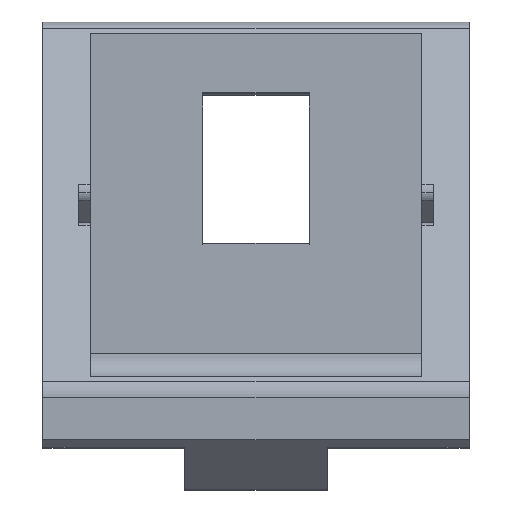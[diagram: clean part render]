
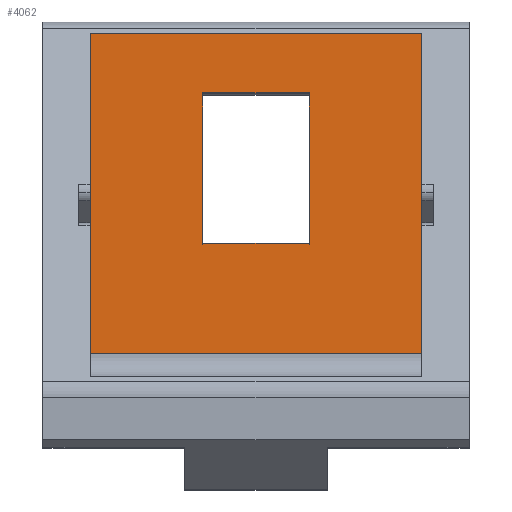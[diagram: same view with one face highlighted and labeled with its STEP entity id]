
A CAD part, top view. The second image highlights one B-rep face of the part: STEP entity #4062.
In plain terms, the highlighted planar face has unit normal (0, 0, 1).
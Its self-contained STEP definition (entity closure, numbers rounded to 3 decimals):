
#102 = PLANE('',#103);
#103 = AXIS2_PLACEMENT_3D('',#104,#105,#106);
#104 = CARTESIAN_POINT('',(7.,4.,4.));
#105 = DIRECTION('',(1.,0.,0.));
#106 = DIRECTION('',(0.,0.,-1.));
#167 = PLANE('',#168);
#168 = AXIS2_PLACEMENT_3D('',#169,#170,#171);
#169 = CARTESIAN_POINT('',(-7.,4.,4.));
#170 = DIRECTION('',(1.,0.,0.));
#171 = DIRECTION('',(0.,0.,-1.));
#404 = VERTEX_POINT('',#405);
#405 = CARTESIAN_POINT('',(7.,17.506,3.));
#419 = PLANE('',#420);
#420 = AXIS2_PLACEMENT_3D('',#421,#422,#423);
#421 = CARTESIAN_POINT('',(9.,17.707,2.799));
#422 = DIRECTION('',(0.,-0.707,-0.707));
#423 = DIRECTION('',(0.,0.707,-0.707));
#431 = EDGE_CURVE('',#432,#404,#434,.T.);
#432 = VERTEX_POINT('',#433);
#433 = CARTESIAN_POINT('',(7.,4.,3.));
#434 = SURFACE_CURVE('',#435,(#439,#446),.PCURVE_S1.);
#435 = LINE('',#436,#437);
#436 = CARTESIAN_POINT('',(7.,4.,3.));
#437 = VECTOR('',#438,1.);
#438 = DIRECTION('',(0.,1.,0.));
#439 = PCURVE('',#102,#440);
#440 = DEFINITIONAL_REPRESENTATION('',(#441),#445);
#441 = LINE('',#442,#443);
#442 = CARTESIAN_POINT('',(1.,0.));
#443 = VECTOR('',#444,1.);
#444 = DIRECTION('',(0.,1.));
#445 = ( GEOMETRIC_REPRESENTATION_CONTEXT(2) 
PARAMETRIC_REPRESENTATION_CONTEXT() REPRESENTATION_CONTEXT('2D SPACE',''
  ) );
#446 = PCURVE('',#447,#452);
#447 = PLANE('',#448);
#448 = AXIS2_PLACEMENT_3D('',#449,#450,#451);
#449 = CARTESIAN_POINT('',(7.,4.,3.));
#450 = DIRECTION('',(0.,-0.,1.));
#451 = DIRECTION('',(1.,0.,0.));
#452 = DEFINITIONAL_REPRESENTATION('',(#453),#457);
#453 = LINE('',#454,#455);
#454 = CARTESIAN_POINT('',(0.,0.));
#455 = VECTOR('',#456,1.);
#456 = DIRECTION('',(0.,1.));
#457 = ( GEOMETRIC_REPRESENTATION_CONTEXT(2) 
PARAMETRIC_REPRESENTATION_CONTEXT() REPRESENTATION_CONTEXT('2D SPACE',''
  ) );
#476 = CYLINDRICAL_SURFACE('',#477,1.);
#477 = AXIS2_PLACEMENT_3D('',#478,#479,#480);
#478 = CARTESIAN_POINT('',(7.,4.,4.));
#479 = DIRECTION('',(-1.,0.,0.));
#480 = DIRECTION('',(0.,0.,1.));
#646 = VERTEX_POINT('',#647);
#647 = CARTESIAN_POINT('',(-7.,4.,3.));
#669 = EDGE_CURVE('',#646,#670,#672,.T.);
#670 = VERTEX_POINT('',#671);
#671 = CARTESIAN_POINT('',(-7.,17.506,3.));
#672 = SURFACE_CURVE('',#673,(#677,#684),.PCURVE_S1.);
#673 = LINE('',#674,#675);
#674 = CARTESIAN_POINT('',(-7.,4.,3.));
#675 = VECTOR('',#676,1.);
#676 = DIRECTION('',(0.,1.,0.));
#677 = PCURVE('',#167,#678);
#678 = DEFINITIONAL_REPRESENTATION('',(#679),#683);
#679 = LINE('',#680,#681);
#680 = CARTESIAN_POINT('',(1.,0.));
#681 = VECTOR('',#682,1.);
#682 = DIRECTION('',(0.,1.));
#683 = ( GEOMETRIC_REPRESENTATION_CONTEXT(2) 
PARAMETRIC_REPRESENTATION_CONTEXT() REPRESENTATION_CONTEXT('2D SPACE',''
  ) );
#684 = PCURVE('',#447,#685);
#685 = DEFINITIONAL_REPRESENTATION('',(#686),#690);
#686 = LINE('',#687,#688);
#687 = CARTESIAN_POINT('',(-14.,0.));
#688 = VECTOR('',#689,1.);
#689 = DIRECTION('',(0.,1.));
#690 = ( GEOMETRIC_REPRESENTATION_CONTEXT(2) 
PARAMETRIC_REPRESENTATION_CONTEXT() REPRESENTATION_CONTEXT('2D SPACE',''
  ) );
#2350 = PLANE('',#2351);
#2351 = AXIS2_PLACEMENT_3D('',#2352,#2353,#2354);
#2352 = CARTESIAN_POINT('',(-2.25,3.,15.));
#2353 = DIRECTION('',(1.,0.,-0.));
#2354 = DIRECTION('',(-0.,0.,-1.));
#2378 = PLANE('',#2379);
#2379 = AXIS2_PLACEMENT_3D('',#2380,#2381,#2382);
#2380 = CARTESIAN_POINT('',(2.25,8.657,3.));
#2381 = DIRECTION('',(0.,0.707,-0.707));
#2382 = DIRECTION('',(0.,0.707,0.707));
#2404 = PLANE('',#2405);
#2405 = AXIS2_PLACEMENT_3D('',#2406,#2407,#2408);
#2406 = CARTESIAN_POINT('',(2.25,3.,15.));
#2407 = DIRECTION('',(1.,0.,-0.));
#2408 = DIRECTION('',(-0.,0.,-1.));
#2444 = VERTEX_POINT('',#2445);
#2445 = CARTESIAN_POINT('',(-2.25,15.,3.));
#2459 = PLANE('',#2460);
#2460 = AXIS2_PLACEMENT_3D('',#2461,#2462,#2463);
#2461 = CARTESIAN_POINT('',(2.25,15.,-2.));
#2462 = DIRECTION('',(0.,-1.,0.));
#2463 = DIRECTION('',(0.,-0.,-1.));
#2471 = EDGE_CURVE('',#2444,#2472,#2474,.T.);
#2472 = VERTEX_POINT('',#2473);
#2473 = CARTESIAN_POINT('',(-2.25,8.657,3.));
#2474 = SURFACE_CURVE('',#2475,(#2479,#2486),.PCURVE_S1.);
#2475 = LINE('',#2476,#2477);
#2476 = CARTESIAN_POINT('',(-2.25,15.,3.));
#2477 = VECTOR('',#2478,1.);
#2478 = DIRECTION('',(0.,-1.,0.));
#2479 = PCURVE('',#2350,#2480);
#2480 = DEFINITIONAL_REPRESENTATION('',(#2481),#2485);
#2481 = LINE('',#2482,#2483);
#2482 = CARTESIAN_POINT('',(12.,12.));
#2483 = VECTOR('',#2484,1.);
#2484 = DIRECTION('',(-0.,-1.));
#2485 = ( GEOMETRIC_REPRESENTATION_CONTEXT(2) 
PARAMETRIC_REPRESENTATION_CONTEXT() REPRESENTATION_CONTEXT('2D SPACE',''
  ) );
#2486 = PCURVE('',#447,#2487);
#2487 = DEFINITIONAL_REPRESENTATION('',(#2488),#2492);
#2488 = LINE('',#2489,#2490);
#2489 = CARTESIAN_POINT('',(-9.25,11.));
#2490 = VECTOR('',#2491,1.);
#2491 = DIRECTION('',(0.,-1.));
#2492 = ( GEOMETRIC_REPRESENTATION_CONTEXT(2) 
PARAMETRIC_REPRESENTATION_CONTEXT() REPRESENTATION_CONTEXT('2D SPACE',''
  ) );
#2543 = VERTEX_POINT('',#2544);
#2544 = CARTESIAN_POINT('',(2.25,8.657,3.));
#2565 = EDGE_CURVE('',#2566,#2543,#2568,.T.);
#2566 = VERTEX_POINT('',#2567);
#2567 = CARTESIAN_POINT('',(2.25,15.,3.));
#2568 = SURFACE_CURVE('',#2569,(#2573,#2580),.PCURVE_S1.);
#2569 = LINE('',#2570,#2571);
#2570 = CARTESIAN_POINT('',(2.25,15.,3.));
#2571 = VECTOR('',#2572,1.);
#2572 = DIRECTION('',(0.,-1.,0.));
#2573 = PCURVE('',#2404,#2574);
#2574 = DEFINITIONAL_REPRESENTATION('',(#2575),#2579);
#2575 = LINE('',#2576,#2577);
#2576 = CARTESIAN_POINT('',(12.,12.));
#2577 = VECTOR('',#2578,1.);
#2578 = DIRECTION('',(-0.,-1.));
#2579 = ( GEOMETRIC_REPRESENTATION_CONTEXT(2) 
PARAMETRIC_REPRESENTATION_CONTEXT() REPRESENTATION_CONTEXT('2D SPACE',''
  ) );
#2580 = PCURVE('',#447,#2581);
#2581 = DEFINITIONAL_REPRESENTATION('',(#2582),#2586);
#2582 = LINE('',#2583,#2584);
#2583 = CARTESIAN_POINT('',(-4.75,11.));
#2584 = VECTOR('',#2585,1.);
#2585 = DIRECTION('',(0.,-1.));
#2586 = ( GEOMETRIC_REPRESENTATION_CONTEXT(2) 
PARAMETRIC_REPRESENTATION_CONTEXT() REPRESENTATION_CONTEXT('2D SPACE',''
  ) );
#2635 = EDGE_CURVE('',#2566,#2444,#2636,.T.);
#2636 = SURFACE_CURVE('',#2637,(#2641,#2648),.PCURVE_S1.);
#2637 = LINE('',#2638,#2639);
#2638 = CARTESIAN_POINT('',(2.25,15.,3.));
#2639 = VECTOR('',#2640,1.);
#2640 = DIRECTION('',(-1.,0.,0.));
#2641 = PCURVE('',#2459,#2642);
#2642 = DEFINITIONAL_REPRESENTATION('',(#2643),#2647);
#2643 = LINE('',#2644,#2645);
#2644 = CARTESIAN_POINT('',(-5.,0.));
#2645 = VECTOR('',#2646,1.);
#2646 = DIRECTION('',(-0.,-1.));
#2647 = ( GEOMETRIC_REPRESENTATION_CONTEXT(2) 
PARAMETRIC_REPRESENTATION_CONTEXT() REPRESENTATION_CONTEXT('2D SPACE',''
  ) );
#2648 = PCURVE('',#447,#2649);
#2649 = DEFINITIONAL_REPRESENTATION('',(#2650),#2654);
#2650 = LINE('',#2651,#2652);
#2651 = CARTESIAN_POINT('',(-4.75,11.));
#2652 = VECTOR('',#2653,1.);
#2653 = DIRECTION('',(-1.,0.));
#2654 = ( GEOMETRIC_REPRESENTATION_CONTEXT(2) 
PARAMETRIC_REPRESENTATION_CONTEXT() REPRESENTATION_CONTEXT('2D SPACE',''
  ) );
#3822 = EDGE_CURVE('',#404,#670,#3823,.T.);
#3823 = SURFACE_CURVE('',#3824,(#3828,#3835),.PCURVE_S1.);
#3824 = LINE('',#3825,#3826);
#3825 = CARTESIAN_POINT('',(9.,17.506,3.));
#3826 = VECTOR('',#3827,1.);
#3827 = DIRECTION('',(-1.,0.,0.));
#3828 = PCURVE('',#419,#3829);
#3829 = DEFINITIONAL_REPRESENTATION('',(#3830),#3834);
#3830 = LINE('',#3831,#3832);
#3831 = CARTESIAN_POINT('',(-0.284,0.));
#3832 = VECTOR('',#3833,1.);
#3833 = DIRECTION('',(0.,-1.));
#3834 = ( GEOMETRIC_REPRESENTATION_CONTEXT(2) 
PARAMETRIC_REPRESENTATION_CONTEXT() REPRESENTATION_CONTEXT('2D SPACE',''
  ) );
#3835 = PCURVE('',#447,#3836);
#3836 = DEFINITIONAL_REPRESENTATION('',(#3837),#3841);
#3837 = LINE('',#3838,#3839);
#3838 = CARTESIAN_POINT('',(2.,13.506));
#3839 = VECTOR('',#3840,1.);
#3840 = DIRECTION('',(-1.,0.));
#3841 = ( GEOMETRIC_REPRESENTATION_CONTEXT(2) 
PARAMETRIC_REPRESENTATION_CONTEXT() REPRESENTATION_CONTEXT('2D SPACE',''
  ) );
#4062 = ADVANCED_FACE('',(#4063,#4089),#447,.T.);
#4063 = FACE_BOUND('',#4064,.T.);
#4064 = EDGE_LOOP('',(#4065,#4066,#4087,#4088));
#4065 = ORIENTED_EDGE('',*,*,#2565,.T.);
#4066 = ORIENTED_EDGE('',*,*,#4067,.T.);
#4067 = EDGE_CURVE('',#2543,#2472,#4068,.T.);
#4068 = SURFACE_CURVE('',#4069,(#4073,#4080),.PCURVE_S1.);
#4069 = LINE('',#4070,#4071);
#4070 = CARTESIAN_POINT('',(2.25,8.657,3.));
#4071 = VECTOR('',#4072,1.);
#4072 = DIRECTION('',(-1.,0.,0.));
#4073 = PCURVE('',#447,#4074);
#4074 = DEFINITIONAL_REPRESENTATION('',(#4075),#4079);
#4075 = LINE('',#4076,#4077);
#4076 = CARTESIAN_POINT('',(-4.75,4.657));
#4077 = VECTOR('',#4078,1.);
#4078 = DIRECTION('',(-1.,0.));
#4079 = ( GEOMETRIC_REPRESENTATION_CONTEXT(2) 
PARAMETRIC_REPRESENTATION_CONTEXT() REPRESENTATION_CONTEXT('2D SPACE',''
  ) );
#4080 = PCURVE('',#2378,#4081);
#4081 = DEFINITIONAL_REPRESENTATION('',(#4082),#4086);
#4082 = LINE('',#4083,#4084);
#4083 = CARTESIAN_POINT('',(0.,0.));
#4084 = VECTOR('',#4085,1.);
#4085 = DIRECTION('',(0.,-1.));
#4086 = ( GEOMETRIC_REPRESENTATION_CONTEXT(2) 
PARAMETRIC_REPRESENTATION_CONTEXT() REPRESENTATION_CONTEXT('2D SPACE',''
  ) );
#4087 = ORIENTED_EDGE('',*,*,#2471,.F.);
#4088 = ORIENTED_EDGE('',*,*,#2635,.F.);
#4089 = FACE_BOUND('',#4090,.T.);
#4090 = EDGE_LOOP('',(#4091,#4092,#4093,#4114));
#4091 = ORIENTED_EDGE('',*,*,#3822,.T.);
#4092 = ORIENTED_EDGE('',*,*,#669,.F.);
#4093 = ORIENTED_EDGE('',*,*,#4094,.F.);
#4094 = EDGE_CURVE('',#432,#646,#4095,.T.);
#4095 = SURFACE_CURVE('',#4096,(#4100,#4107),.PCURVE_S1.);
#4096 = LINE('',#4097,#4098);
#4097 = CARTESIAN_POINT('',(7.,4.,3.));
#4098 = VECTOR('',#4099,1.);
#4099 = DIRECTION('',(-1.,0.,0.));
#4100 = PCURVE('',#447,#4101);
#4101 = DEFINITIONAL_REPRESENTATION('',(#4102),#4106);
#4102 = LINE('',#4103,#4104);
#4103 = CARTESIAN_POINT('',(0.,0.));
#4104 = VECTOR('',#4105,1.);
#4105 = DIRECTION('',(-1.,0.));
#4106 = ( GEOMETRIC_REPRESENTATION_CONTEXT(2) 
PARAMETRIC_REPRESENTATION_CONTEXT() REPRESENTATION_CONTEXT('2D SPACE',''
  ) );
#4107 = PCURVE('',#476,#4108);
#4108 = DEFINITIONAL_REPRESENTATION('',(#4109),#4113);
#4109 = LINE('',#4110,#4111);
#4110 = CARTESIAN_POINT('',(3.142,0.));
#4111 = VECTOR('',#4112,1.);
#4112 = DIRECTION('',(0.,1.));
#4113 = ( GEOMETRIC_REPRESENTATION_CONTEXT(2) 
PARAMETRIC_REPRESENTATION_CONTEXT() REPRESENTATION_CONTEXT('2D SPACE',''
  ) );
#4114 = ORIENTED_EDGE('',*,*,#431,.T.);
